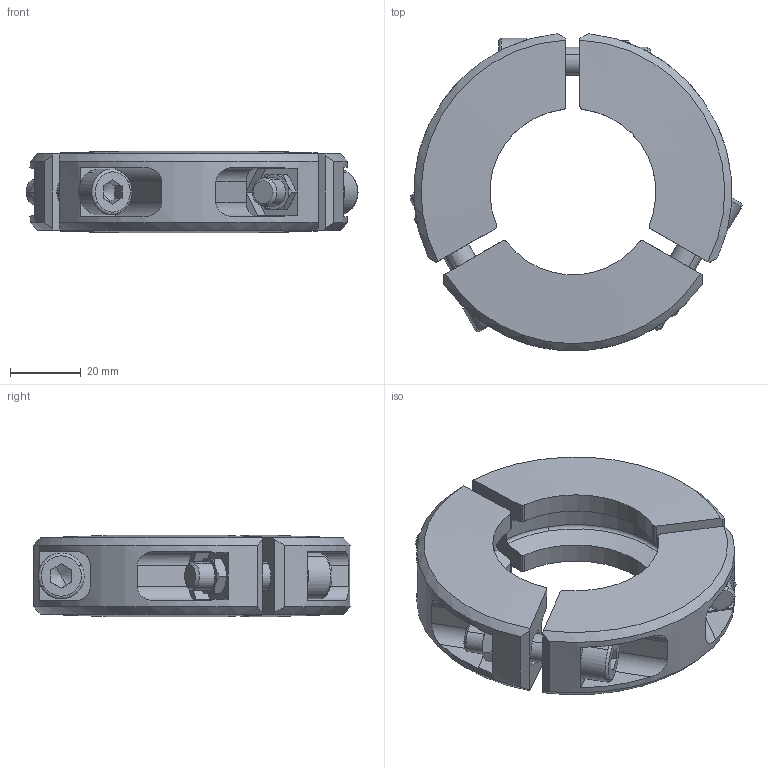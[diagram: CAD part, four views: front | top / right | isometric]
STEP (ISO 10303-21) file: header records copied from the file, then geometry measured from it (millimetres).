
FILE_DESCRIPTION((''),'2;1');
FILE_NAME('W:\211-010.stp','2003-11-10T11:05:23',('KAA'),(''),'Autodesk Inventor (R) 6.0','Autodesk Inventor (R) 6.0','');
FILE_SCHEMA(('CONFIG_CONTROL_DESIGN'));
Length unit declared in the file: millimetre
Products named in the file (1): 211-010
Bounding box: 93.99 x 89.63 x 23 mm (x, y, z)
Volume: 74859.3 mm3; surface area: 29457.3 mm2
Topology: 1 solids, 1 shells, 315 faces, 819 edges, 498 vertices
Faces by surface type: plane 111, cone 96, cylinder 90, torus 12, bspline 6
Entity records: 10273 total; most frequent: CARTESIAN_POINT 2827, ORIENTED_EDGE 1626, DIRECTION 1520, EDGE_CURVE 813, AXIS2_PLACEMENT_3D 613, VERTEX_POINT 498, EDGE_LOOP 345, FACE_OUTER_BOUND 315
